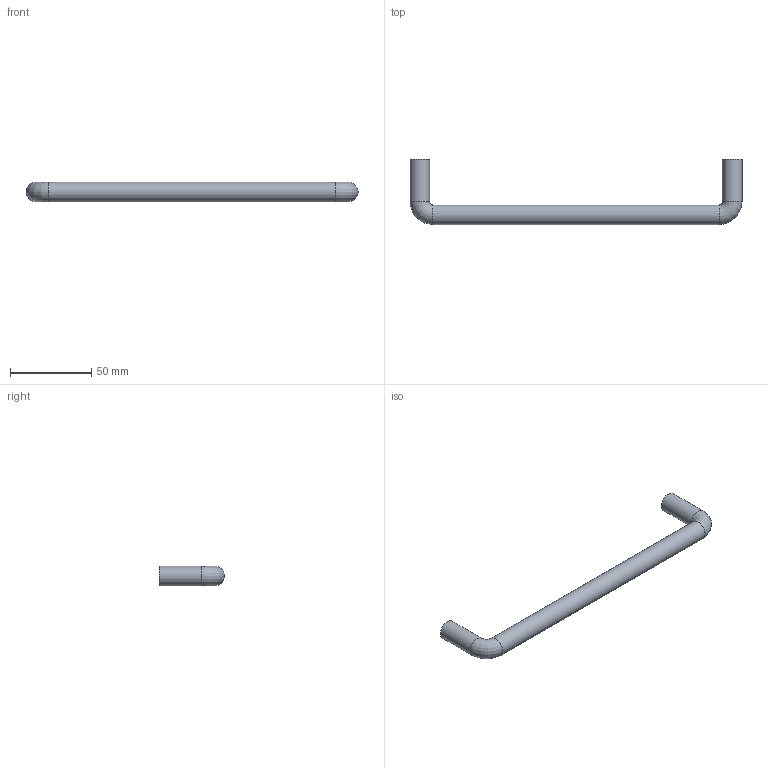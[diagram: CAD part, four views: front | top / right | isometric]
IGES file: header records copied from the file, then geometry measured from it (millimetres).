
Start section: Data from Parasolid IGES Translator 15.0.47, Copyright(c) 2006 Siemens P LM Software. All Rights Reserved.
Global section: file name: 9070105.igs; native system:  By UGS Corp.; preprocessor: XPlus GENERIC/IGES 3.0; author: Noname; organization: Noname; date: 20140122.155443; units: millimetre
Bounding box: 204 x 40 x 12 mm (x, y, z)
Surface area: 10020.4 mm2 (no closed solid volume)
Topology: 0 solids, 0 shells, 11 faces, 42 edges, 38 vertices
Faces by surface type: revolution 7, extrusion 4
